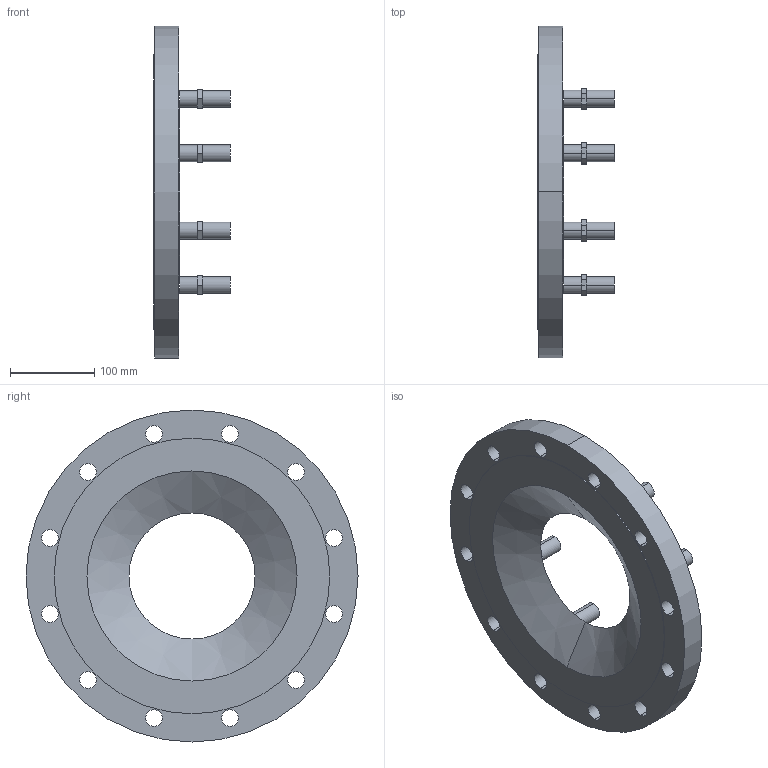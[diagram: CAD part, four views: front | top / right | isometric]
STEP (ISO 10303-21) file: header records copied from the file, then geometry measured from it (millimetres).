
FILE_DESCRIPTION(('STEP AP214'),'1');
FILE_NAME('S:/EK/USER/CAT6/3DHomepage_27-04-2012/VDI-Rohrsysteme_und_Stahlrohre/0802_(8110)/0802_PN10_DN250_DN150.STP','2013-01-25T08:14:57',(' '),(' '),'Spatial InterOp 3D',' ',' ');
FILE_SCHEMA(('automotive_design'));
Length unit declared in the file: millimetre
Products named in the file (18): 3D-Objekt
Bounding box: 91 x 395 x 395 mm (x, y, z)
Volume: 2744278.9 mm3; surface area: 372876.7 mm2
Topology: 18 solids, 18 shells, 135 faces, 294 edges, 196 vertices
Faces by surface type: plane 85, cylinder 48, cone 2
Entity records: 5260 total; most frequent: DIRECTION 700, CARTESIAN_POINT 643, ORIENTED_EDGE 588, EDGE_CURVE 294, AXIS2_PLACEMENT_3D 253, VERTEX_POINT 196, LINE 194, VECTOR 194
